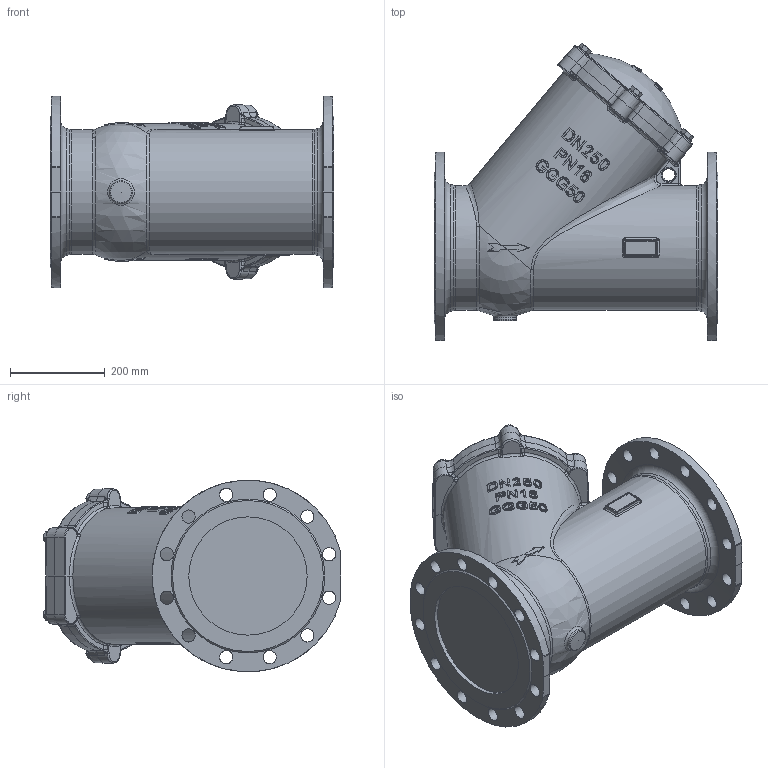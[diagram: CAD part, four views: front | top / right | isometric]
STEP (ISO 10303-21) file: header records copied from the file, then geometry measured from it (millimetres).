
FILE_DESCRIPTION (( 'STEP AP214' ), '1' );
FILE_NAME ('DN250.STEP', '2026-09-15T13:04:51', ( '' ), ( '' ), 'SwSTEP 2.0', 'SolidWorks 2024', '' );
FILE_SCHEMA (( 'AUTOMOTIVE_DESIGN' ));
Length unit declared in the file: millimetre
Products named in the file (1): DN250
Bounding box: 600 x 629.51 x 405 mm (x, y, z)
Volume: 56332587.7 mm3; surface area: 1440014.8 mm2
Topology: 2 solids, 17 shells, 1273 faces, 3316 edges, 2129 vertices
Faces by surface type: bspline 749, plane 202, cylinder 167, cone 74, torus 41, sphere 40
Full cylindrical faces by diameter (mm): 16 x6, 17.5 x6, 28 x24, 30 x6, 48 x1, 250 x2, 264 x2, 282.324 x1
Entity records: 95445 total; most frequent: CARTESIAN_POINT 59812, ORIENTED_EDGE 6290, EDGE_CURVE 3145, DIRECTION 2426, B_SPLINE_CURVE_WITH_KNOTS 2207, VERTEX_POINT 2053, EDGE_LOOP 1496, FACE_OUTER_BOUND 1331
